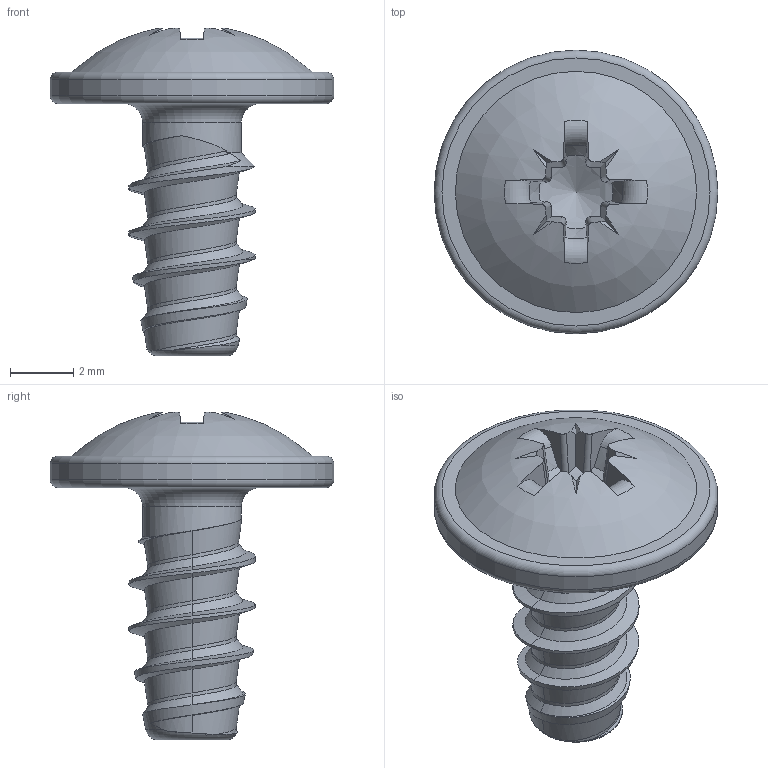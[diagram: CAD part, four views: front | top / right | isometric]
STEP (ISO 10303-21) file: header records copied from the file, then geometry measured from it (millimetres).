
FILE_DESCRIPTION(/* description */ (''),/* implementation_level */ '2;1');
FILE_NAME(/* name */ 'KN6031-STSplus-40x8-Z2.step',/* time_stamp */ '2017-10-09T16:46:24+02:00',/* author */ (''),/* organization */ (''),/* preprocessor_version */ 'ST-DEVELOPER v16',/* originating_system */ 'SIEMENS PLM Software NX 10.0',/* authorisation */ '');
FILE_SCHEMA (('AUTOMOTIVE_DESIGN { 1 0 10303 214 3 1 1 1 }'));
Length unit declared in the file: millimetre
Products named in the file (1): KN6031-STSplus-40x8-Z2
Bounding box: 9 x 9 x 10.39 mm (x, y, z)
Volume: 151.9 mm3; surface area: 265.5 mm2
Topology: 1 solids, 1 shells, 81 faces, 211 edges, 133 vertices
Faces by surface type: plane 27, bspline 27, cylinder 11, torus 8, cone 7, sphere 1
Full cylindrical faces by diameter (mm): 3.13 x1, 9 x1
Entity records: 4066 total; most frequent: CARTESIAN_POINT 2359, ORIENTED_EDGE 394, DIRECTION 261, EDGE_CURVE 197, VERTEX_POINT 128, AXIS2_PLACEMENT_3D 103, B_SPLINE_CURVE_WITH_KNOTS 94, EDGE_LOOP 90
